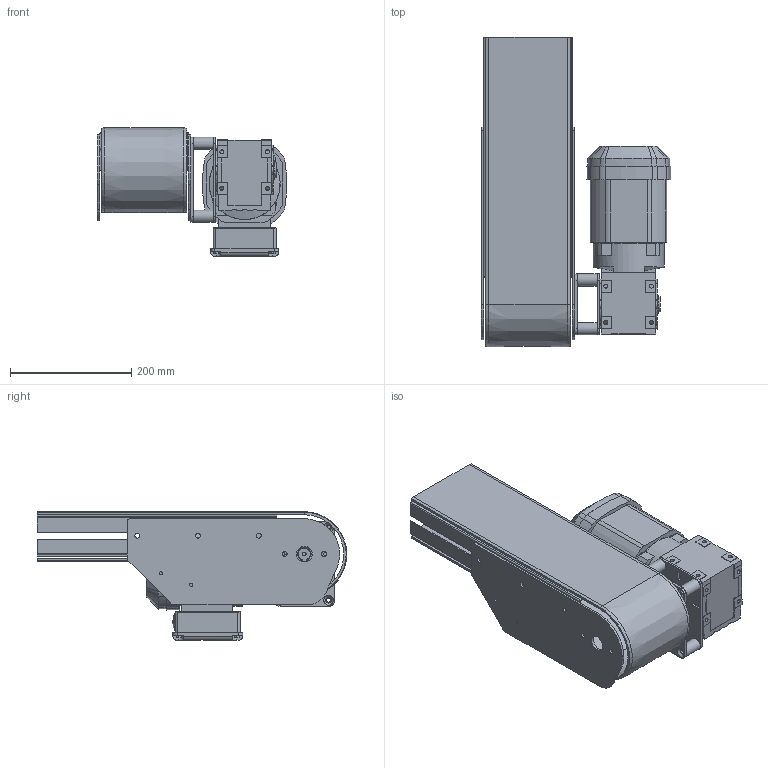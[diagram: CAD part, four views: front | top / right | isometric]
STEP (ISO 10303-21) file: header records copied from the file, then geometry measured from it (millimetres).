
FILE_DESCRIPTION((''),'2;1');
FILE_NAME('C:\Vault Klient\Projekt\Koncept konstruktion\Serie 540 Drivenhet\540-3315V.stp','2010-12-09T09:50:32',('Mathias'),(''),'Autodesk Inventor 2011','Autodesk Inventor 2011','');
FILE_SCHEMA(('AUTOMOTIVE_DESIGN { 1 0 10303 214 1 1 1 1 }'));
Length unit declared in the file: millimetre
Products named in the file (10): 540-3315V; Serie 540 Drivände; 540-1000; 140-2000; 540-3500H; 540-3500V; 500-3100; 500-3160; 500-3070; 900-4030
Assembly tree (12 placements, depth 3):
  540-3315V
    Serie 540 Drivände
      540-1000
      140-2000
      540-3500H
      540-3500V
    500-3100
    500-3160  x4
    500-3070
    900-4030
Bounding box: 311.64 x 509.97 x 211.8 mm (x, y, z)
Volume: 5941447.6 mm3; surface area: 1103176.9 mm2
Topology: 14 solids, 17 shells, 702 faces, 1878 edges, 1235 vertices
Faces by surface type: plane 426, cylinder 226, cone 32, bspline 16, sphere 2
Full cylindrical faces by diameter (mm): 5 x4, 6 x9, 6.6 x8, 6.647 x4, 8 x6, 8.2 x4, 8.5 x4, 10 x4, 20 x5, 25 x1, 26 x3, 28 x1, 30 x2, 37 x1, 117 x1
Entity records: 22281 total; most frequent: CARTESIAN_POINT 4169, DIRECTION 3606, ORIENTED_EDGE 3526, EDGE_CURVE 1763, VECTOR 1208, LINE 1208, AXIS2_PLACEMENT_3D 1199, VERTEX_POINT 1198
